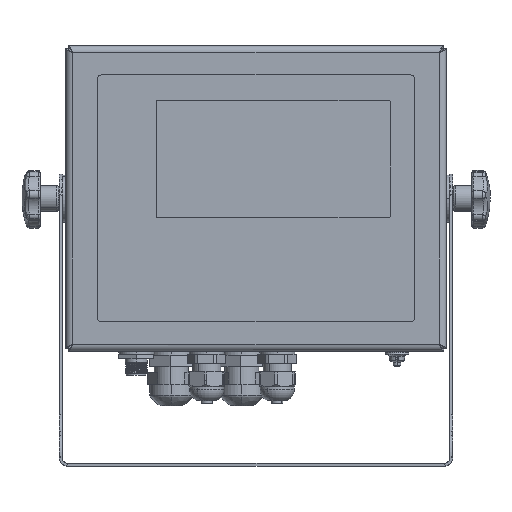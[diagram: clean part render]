
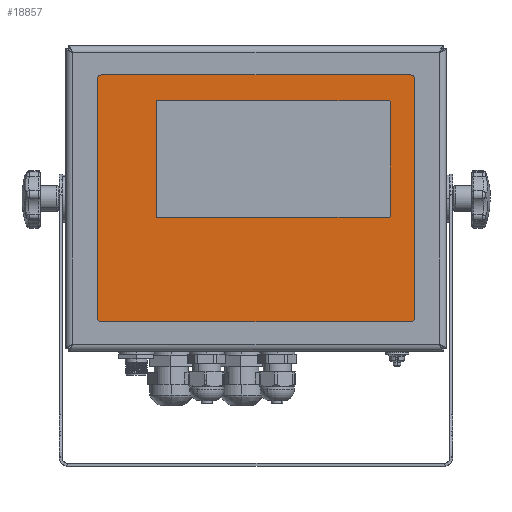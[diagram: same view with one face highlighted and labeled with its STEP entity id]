
A CAD part, top view. The second image highlights one B-rep face of the part: STEP entity #18857.
In plain terms, the highlighted planar face has unit normal (0, 0, 1).
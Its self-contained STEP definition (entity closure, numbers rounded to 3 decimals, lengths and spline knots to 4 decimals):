
#130 = EDGE_CURVE ( 'NONE', #22704, #7005, #30546, .T. ) ;
#288 = DIRECTION ( 'NONE',  ( -1., 0., 0. ) ) ;
#895 = LINE ( 'NONE', #25984, #32378 ) ;
#1044 = CIRCLE ( 'NONE', #29289, 0.09 ) ;
#1639 = VECTOR ( 'NONE', #10503, 39.3701 ) ;
#1811 = DIRECTION ( 'NONE',  ( 1., 0., 0. ) ) ;
#1943 = DIRECTION ( 'NONE',  ( 0., 0., 1. ) ) ;
#1951 = ORIENTED_EDGE ( 'NONE', *, *, #38070, .F. ) ;
#2092 = LINE ( 'NONE', #5277, #3408 ) ;
#2466 = DIRECTION ( 'NONE',  ( -1., 0., 0. ) ) ;
#2607 = LINE ( 'NONE', #27682, #15754 ) ;
#2961 = ORIENTED_EDGE ( 'NONE', *, *, #48649, .T. ) ;
#3408 = VECTOR ( 'NONE', #19206, 39.3701 ) ;
#4162 = CARTESIAN_POINT ( 'NONE',  ( -3.285, 2.625, 0.045 ) ) ;
#4474 = EDGE_CURVE ( 'NONE', #18123, #11810, #2092, .T. ) ;
#4541 = VERTEX_POINT ( 'NONE', #6178 ) ;
#4767 = EDGE_CURVE ( 'NONE', #42818, #18310, #21083, .T. ) ;
#4895 = CARTESIAN_POINT ( 'NONE',  ( -2.0969, 2.078, 0.045 ) ) ;
#4998 = EDGE_CURVE ( 'NONE', #4541, #28557, #43645, .T. ) ;
#5153 = DIRECTION ( 'NONE',  ( 1., 0., 0. ) ) ;
#5277 = CARTESIAN_POINT ( 'NONE',  ( -3.375, -2.535, 0.045 ) ) ;
#5591 = ORIENTED_EDGE ( 'NONE', *, *, #24198, .F. ) ;
#5629 = DIRECTION ( 'NONE',  ( 1., 0., 0. ) ) ;
#5990 = DIRECTION ( 'NONE',  ( 0., 0., 1. ) ) ;
#6178 = CARTESIAN_POINT ( 'NONE',  ( 2.8581, -0.377, 0.045 ) ) ;
#6498 = CIRCLE ( 'NONE', #52450, 0.025 ) ;
#7005 = VERTEX_POINT ( 'NONE', #47577 ) ;
#7469 = ORIENTED_EDGE ( 'NONE', *, *, #33121, .T. ) ;
#8011 = ORIENTED_EDGE ( 'NONE', *, *, #48619, .F. ) ;
#9469 = CARTESIAN_POINT ( 'NONE',  ( 2.8331, 2.053, 0.045 ) ) ;
#9902 = CARTESIAN_POINT ( 'NONE',  ( -2.0969, -0.377, 0.045 ) ) ;
#10503 = DIRECTION ( 'NONE',  ( 0., 1., 0. ) ) ;
#10701 = CARTESIAN_POINT ( 'NONE',  ( 2.8331, -0.402, 0.045 ) ) ;
#11065 = DIRECTION ( 'NONE',  ( 0., 0., 1. ) ) ;
#11302 = FACE_BOUND ( 'NONE', #53430, .T. ) ;
#11728 = CIRCLE ( 'NONE', #22305, 0.09 ) ;
#11810 = VERTEX_POINT ( 'NONE', #30024 ) ;
#11884 = VECTOR ( 'NONE', #44254, 39.3701 ) ;
#12285 = DIRECTION ( 'NONE',  ( 0., 0., 1. ) ) ;
#12653 = ORIENTED_EDGE ( 'NONE', *, *, #52122, .F. ) ;
#13769 = VERTEX_POINT ( 'NONE', #28950 ) ;
#14224 = ORIENTED_EDGE ( 'NONE', *, *, #35982, .T. ) ;
#14591 = CIRCLE ( 'NONE', #48669, 0.025 ) ;
#14647 = CARTESIAN_POINT ( 'NONE',  ( -2.0969, 2.053, 0.045 ) ) ;
#15754 = VECTOR ( 'NONE', #53677, 39.3701 ) ;
#16072 = AXIS2_PLACEMENT_3D ( 'NONE', #9902, #43275, #5153 ) ;
#17160 = EDGE_CURVE ( 'NONE', #13769, #46928, #53349, .T. ) ;
#17396 = ORIENTED_EDGE ( 'NONE', *, *, #4767, .T. ) ;
#17663 = VERTEX_POINT ( 'NONE', #24181 ) ;
#17751 = LINE ( 'NONE', #42163, #38686 ) ;
#18123 = VERTEX_POINT ( 'NONE', #27403 ) ;
#18310 = VERTEX_POINT ( 'NONE', #52386 ) ;
#18448 = PLANE ( 'NONE',  #23583 ) ;
#18857 = ADVANCED_FACE ( 'NONE', ( #51915, #11302 ), #18448, .T. ) ;
#19206 = DIRECTION ( 'NONE',  ( 0., -1., 0. ) ) ;
#19322 = ORIENTED_EDGE ( 'NONE', *, *, #4998, .F. ) ;
#19354 = DIRECTION ( 'NONE',  ( -1., 0., 0. ) ) ;
#20710 = CARTESIAN_POINT ( 'NONE',  ( 3.285, 2.625, 0.045 ) ) ;
#21083 = LINE ( 'NONE', #23175, #11884 ) ;
#21145 = EDGE_CURVE ( 'NONE', #11810, #38443, #48522, .T. ) ;
#21349 = VECTOR ( 'NONE', #26528, 39.3701 ) ;
#21472 = CARTESIAN_POINT ( 'NONE',  ( -2.0969, -0.402, 0.045 ) ) ;
#22305 = AXIS2_PLACEMENT_3D ( 'NONE', #37879, #12285, #46160 ) ;
#22704 = VERTEX_POINT ( 'NONE', #51804 ) ;
#23175 = CARTESIAN_POINT ( 'NONE',  ( 3.375, -2.535, 0.045 ) ) ;
#23583 = AXIS2_PLACEMENT_3D ( 'NONE', #30737, #51958, #5629 ) ;
#24181 = CARTESIAN_POINT ( 'NONE',  ( 3.285, -2.625, 0.045 ) ) ;
#24198 = EDGE_CURVE ( 'NONE', #7005, #13769, #27991, .T. ) ;
#24469 = ORIENTED_EDGE ( 'NONE', *, *, #17160, .F. ) ;
#25408 = DIRECTION ( 'NONE',  ( 0., 0., 1. ) ) ;
#25706 = CARTESIAN_POINT ( 'NONE',  ( 2.8581, 2.053, 0.045 ) ) ;
#25984 = CARTESIAN_POINT ( 'NONE',  ( -3.285, 2.625, 0.045 ) ) ;
#26528 = DIRECTION ( 'NONE',  ( 0., -1., 0. ) ) ;
#26550 = CARTESIAN_POINT ( 'NONE',  ( 2.8331, -0.377, 0.045 ) ) ;
#27403 = CARTESIAN_POINT ( 'NONE',  ( -3.375, 2.535, 0.045 ) ) ;
#27428 = VERTEX_POINT ( 'NONE', #4895 ) ;
#27565 = CARTESIAN_POINT ( 'NONE',  ( -3.285, 2.535, 0.045 ) ) ;
#27682 = CARTESIAN_POINT ( 'NONE',  ( -3.285, -2.625, 0.045 ) ) ;
#27991 = CIRCLE ( 'NONE', #16072, 0.025 ) ;
#28557 = VERTEX_POINT ( 'NONE', #25706 ) ;
#28950 = CARTESIAN_POINT ( 'NONE',  ( -2.0969, -0.402, 0.045 ) ) ;
#29108 = CARTESIAN_POINT ( 'NONE',  ( 3.375, -2.535, 0.045 ) ) ;
#29289 = AXIS2_PLACEMENT_3D ( 'NONE', #32018, #44324, #32364 ) ;
#30024 = CARTESIAN_POINT ( 'NONE',  ( -3.375, -2.535, 0.045 ) ) ;
#30378 = EDGE_CURVE ( 'NONE', #38443, #17663, #2607, .T. ) ;
#30540 = VERTEX_POINT ( 'NONE', #46526 ) ;
#30546 = LINE ( 'NONE', #40130, #21349 ) ;
#30737 = CARTESIAN_POINT ( 'NONE',  ( 3.285, -2.535, 0.045 ) ) ;
#32018 = CARTESIAN_POINT ( 'NONE',  ( 3.285, -2.535, 0.045 ) ) ;
#32364 = DIRECTION ( 'NONE',  ( 1., 0., 0. ) ) ;
#32378 = VECTOR ( 'NONE', #38392, 39.3701 ) ;
#32845 = EDGE_CURVE ( 'NONE', #46928, #4541, #6498, .T. ) ;
#33121 = EDGE_CURVE ( 'NONE', #18310, #36661, #11728, .T. ) ;
#33540 = DIRECTION ( 'NONE',  ( 1., 0., 0. ) ) ;
#35982 = EDGE_CURVE ( 'NONE', #42908, #18123, #50617, .T. ) ;
#36422 = AXIS2_PLACEMENT_3D ( 'NONE', #27565, #11065, #2466 ) ;
#36661 = VERTEX_POINT ( 'NONE', #20710 ) ;
#37879 = CARTESIAN_POINT ( 'NONE',  ( 3.285, 2.535, 0.045 ) ) ;
#38070 = EDGE_CURVE ( 'NONE', #30540, #27428, #17751, .T. ) ;
#38388 = AXIS2_PLACEMENT_3D ( 'NONE', #14647, #5990, #1811 ) ;
#38392 = DIRECTION ( 'NONE',  ( -1., 0., 0. ) ) ;
#38443 = VERTEX_POINT ( 'NONE', #45419 ) ;
#38686 = VECTOR ( 'NONE', #46396, 39.3701 ) ;
#39682 = DIRECTION ( 'NONE',  ( 1., 0., 0. ) ) ;
#40130 = CARTESIAN_POINT ( 'NONE',  ( -2.1219, 2.053, 0.045 ) ) ;
#40205 = CARTESIAN_POINT ( 'NONE',  ( -3.285, -2.535, 0.045 ) ) ;
#42163 = CARTESIAN_POINT ( 'NONE',  ( -2.0969, 2.078, 0.045 ) ) ;
#42812 = ORIENTED_EDGE ( 'NONE', *, *, #50386, .T. ) ;
#42818 = VERTEX_POINT ( 'NONE', #29108 ) ;
#42908 = VERTEX_POINT ( 'NONE', #4162 ) ;
#43275 = DIRECTION ( 'NONE',  ( 0., 0., 1. ) ) ;
#43645 = LINE ( 'NONE', #47718, #1639 ) ;
#44254 = DIRECTION ( 'NONE',  ( 0., 1., 0. ) ) ;
#44324 = DIRECTION ( 'NONE',  ( 0., 0., 1. ) ) ;
#44444 = DIRECTION ( 'NONE',  ( 0., 0., 1. ) ) ;
#44943 = ORIENTED_EDGE ( 'NONE', *, *, #4474, .T. ) ;
#45010 = CIRCLE ( 'NONE', #38388, 0.025 ) ;
#45419 = CARTESIAN_POINT ( 'NONE',  ( -3.285, -2.625, 0.045 ) ) ;
#46160 = DIRECTION ( 'NONE',  ( -1., 0., 0. ) ) ;
#46163 = VECTOR ( 'NONE', #33540, 39.3701 ) ;
#46396 = DIRECTION ( 'NONE',  ( -1., 0., 0. ) ) ;
#46526 = CARTESIAN_POINT ( 'NONE',  ( 2.8331, 2.078, 0.045 ) ) ;
#46928 = VERTEX_POINT ( 'NONE', #10701 ) ;
#47577 = CARTESIAN_POINT ( 'NONE',  ( -2.1219, -0.377, 0.045 ) ) ;
#47718 = CARTESIAN_POINT ( 'NONE',  ( 2.8581, 2.053, 0.045 ) ) ;
#48287 = ORIENTED_EDGE ( 'NONE', *, *, #32845, .F. ) ;
#48522 = CIRCLE ( 'NONE', #53814, 0.09 ) ;
#48619 = EDGE_CURVE ( 'NONE', #27428, #22704, #45010, .T. ) ;
#48649 = EDGE_CURVE ( 'NONE', #17663, #42818, #1044, .T. ) ;
#48669 = AXIS2_PLACEMENT_3D ( 'NONE', #9469, #25408, #288 ) ;
#48934 = ORIENTED_EDGE ( 'NONE', *, *, #30378, .T. ) ;
#50259 = ORIENTED_EDGE ( 'NONE', *, *, #130, .F. ) ;
#50386 = EDGE_CURVE ( 'NONE', #36661, #42908, #895, .T. ) ;
#50617 = CIRCLE ( 'NONE', #36422, 0.09 ) ;
#51804 = CARTESIAN_POINT ( 'NONE',  ( -2.1219, 2.053, 0.045 ) ) ;
#51915 = FACE_OUTER_BOUND ( 'NONE', #52131, .T. ) ;
#51958 = DIRECTION ( 'NONE',  ( 0., 0., 1. ) ) ;
#52122 = EDGE_CURVE ( 'NONE', #28557, #30540, #14591, .T. ) ;
#52131 = EDGE_LOOP ( 'NONE', ( #2961, #17396, #7469, #42812, #14224, #44943, #52954, #48934 ) ) ;
#52386 = CARTESIAN_POINT ( 'NONE',  ( 3.375, 2.535, 0.045 ) ) ;
#52450 = AXIS2_PLACEMENT_3D ( 'NONE', #26550, #1943, #39682 ) ;
#52954 = ORIENTED_EDGE ( 'NONE', *, *, #21145, .T. ) ;
#53349 = LINE ( 'NONE', #21472, #46163 ) ;
#53430 = EDGE_LOOP ( 'NONE', ( #1951, #12653, #19322, #48287, #24469, #5591, #50259, #8011 ) ) ;
#53677 = DIRECTION ( 'NONE',  ( 1., 0., 0. ) ) ;
#53814 = AXIS2_PLACEMENT_3D ( 'NONE', #40205, #44444, #19354 ) ;
